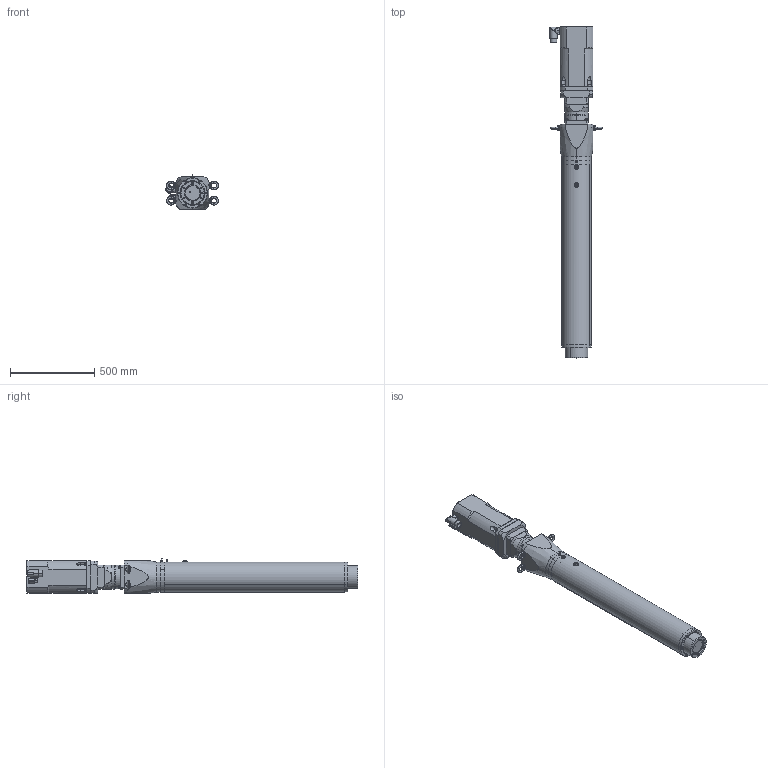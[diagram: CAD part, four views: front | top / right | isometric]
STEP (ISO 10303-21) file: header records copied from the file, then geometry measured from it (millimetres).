
FILE_DESCRIPTION (( 'STEP AP203' ), '1' );
FILE_NAME ('LN5I1000-075-020HG.STEP', '2018-01-30T10:15:18', ( '' ), ( '' ), 'SwSTEP 2.0', 'SolidWorks 2016', '' );
FILE_SCHEMA (( 'CONFIG_CONTROL_DESIGN' ));
Length unit declared in the file: millimetre
Products named in the file (1): LN5I1000-075-020HG
Bounding box: 313 x 1971 x 207.55 mm (x, y, z)
Volume: 41031379.3 mm3; surface area: 3022882.4 mm2
Topology: 28 solids, 28 shells, 1149 faces, 2729 edges, 1617 vertices
Faces by surface type: cylinder 438, plane 354, cone 199, torus 82, bspline 74, sphere 2
Entity records: 38479 total; most frequent: CARTESIAN_POINT 12363, DIRECTION 5685, ORIENTED_EDGE 5174, EDGE_CURVE 2587, AXIS2_PLACEMENT_3D 2271, VERTEX_POINT 1617, EDGE_LOOP 1350, CIRCLE 1195
